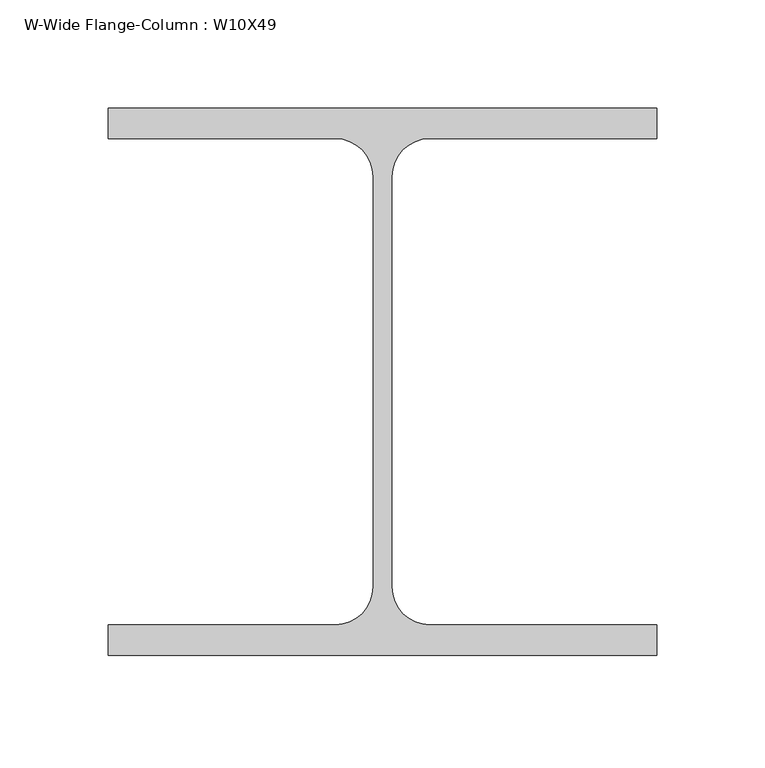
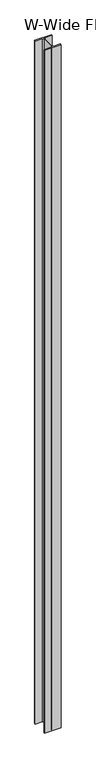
"""IFC4 building model written with IfcOpenShell, lengths in millimetres: column geometry, W-Wide Flange-Column : W10X49."""

from ifc_helpers import new_model, si_unit, point, frame, frame_2d, origin, place, context, project, spatial, polyline, circle_curve, trimmed, segment, composite_curve, outline, extrude, source, transform, mapped, element, save


def w_wide_flange_column_w10x49_891e5d90(model_context):
    return source(origin(), model_context, "Body", "SweptSolid", [
        extrude(outline(composite_curve([segment(polyline([(127.0, 126.7519531), (127.0, 112.5636719), (21.8777344, 112.5636719)]), True, "CONTINUOUS"), segment(trimmed(circle_curve(frame_2d((21.8777344, 95.0019531)), 17.5617188), [point((21.8777344, 112.5636719))], [point((4.3160156, 95.0019531))], True, "CARTESIAN"), True, "CONTINUOUS"), segment(polyline([(4.3160156, 95.0019531), (4.3160156, -95.0019531)]), True, "CONTINUOUS"), segment(trimmed(circle_curve(frame_2d((21.8777344, -95.0019531)), 17.5617187), [point((4.3160156, -95.0019531))], [point((21.8777344, -112.5636719))], True, "CARTESIAN"), True, "CONTINUOUS"), segment(polyline([(21.8777344, -112.5636719), (127.0, -112.5636719), (127.0, -126.7519531), (-127.0, -126.7519531), (-127.0, -112.5636719), (-21.8777344, -112.5636719)]), True, "CONTINUOUS"), segment(trimmed(circle_curve(frame_2d((-21.8777344, -95.0019531)), 17.5617187), [point((-21.8777344, -112.5636719))], [point((-4.3160156, -95.0019531))], True, "CARTESIAN"), True, "CONTINUOUS"), segment(polyline([(-4.3160156, -95.0019531), (-4.3160156, 95.0019531)]), True, "CONTINUOUS"), segment(trimmed(circle_curve(frame_2d((-21.8777344, 95.0019531)), 17.5617188), [point((-4.3160156, 95.0019531))], [point((-21.8777344, 112.5636719))], True, "CARTESIAN"), True, "CONTINUOUS"), segment(polyline([(-21.8777344, 112.5636719), (-127.0, 112.5636719), (-127.0, 126.7519531), (127.0, 126.7519531)]), True, "CONTINUOUS")], self_intersect=False)), frame((0.0, 0.0, 45110.4), z_axis=(0.0, 0.0, 1.0), x_axis=(1.0, 0.0, 0.0)), (0.0, 0.0, 1.0), 10904.1),
    ])


if __name__ == "__main__":
    model = new_model("IFC4")
    model_context = context("Model", 3, world=origin())
    ifc_project = project(units=[si_unit("LENGTHUNIT", "METRE", prefix="MILLI")], contexts=[model_context])
    site = spatial("IfcSite", under=ifc_project)
    building = spatial("IfcBuilding", under=site)
    placement = place(None, origin())
    w_wide_flange_column_w10x49_shape = w_wide_flange_column_w10x49_891e5d90(model_context)
    element("IfcColumn", 1, ObjectType="W-Wide Flange-Column : W10X49", at=placement, inside=building, context=model_context, shape_type="MappedRepresentation", body=[
        mapped(w_wide_flange_column_w10x49_shape, transform((0.0, 0.0, 0.0), x_axis=(1.0, 0.0, 0.0), y_axis=(0.0, 1.0, 0.0), z_axis=(0.0, 0.0, 1.0))),
    ])
    save(model, "model.ifc")
